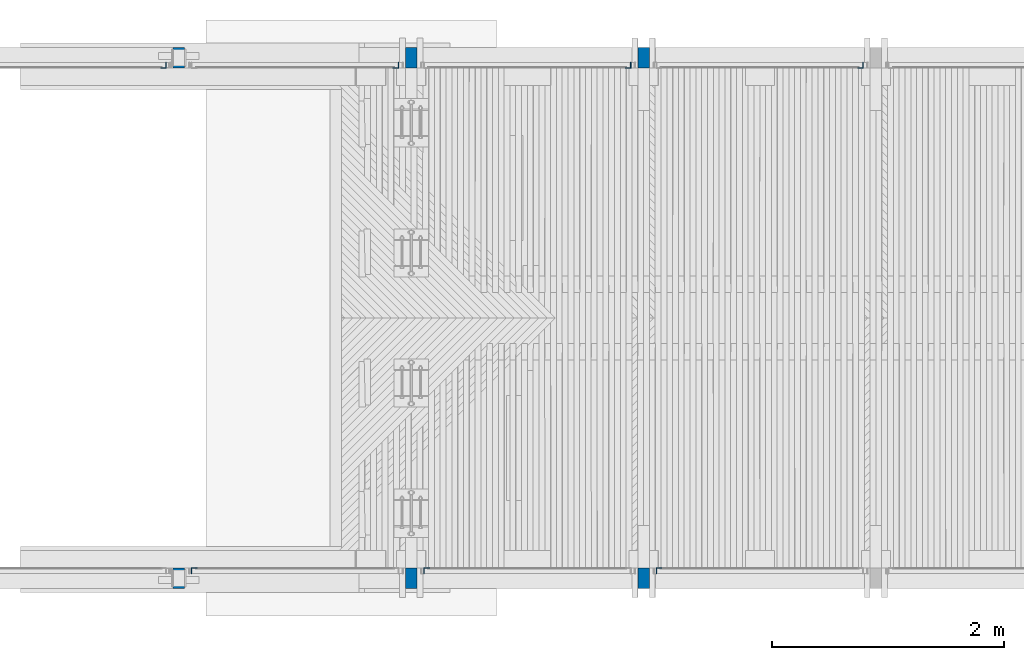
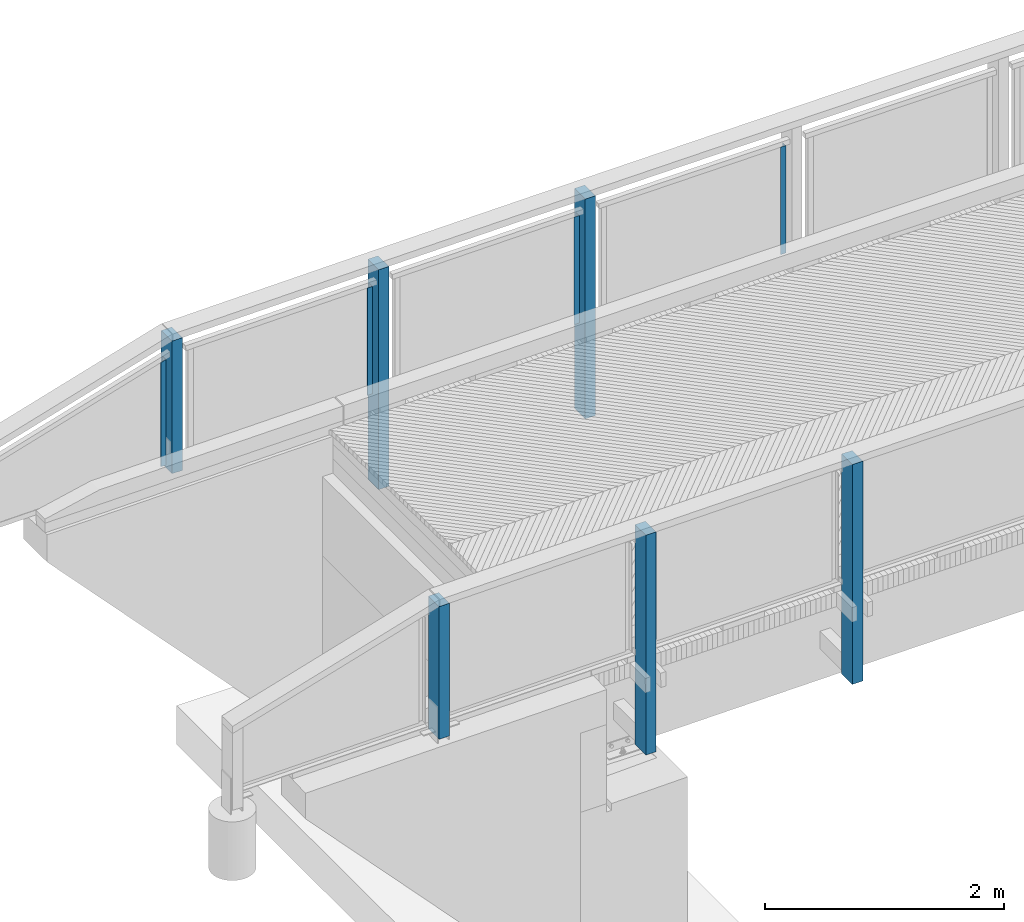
# One storey, part 7 of 65: 13 columns.
"""IFC2X3 building model written with IfcOpenShell, lengths in millimetres."""

from ifc_helpers import new_model, si_unit, frame, origin_with_axes, place, context, subcontext, project, spatial, faceted_brep, material, type_object, element, save


model = new_model("IFC2X3")

# Units and contexts
model_context = context("Model", 3, precision=1e-05, world=origin_with_axes())
body_context = subcontext(model_context, "Body", "Model", "MODEL_VIEW")
ifc_project = project(units=[si_unit("LENGTHUNIT", "METRE", prefix="MILLI"), si_unit("AREAUNIT", "SQUARE_METRE"), si_unit("VOLUMEUNIT", "CUBIC_METRE"), si_unit("MASSUNIT", "GRAM", prefix="KILO"), si_unit("TIMEUNIT", "SECOND"), si_unit("PLANEANGLEUNIT", "RADIAN"), si_unit("SOLIDANGLEUNIT", "STERADIAN"), si_unit("THERMODYNAMICTEMPERATUREUNIT", "DEGREE_CELSIUS"), si_unit("LUMINOUSINTENSITYUNIT", "LUMEN")], contexts=[model_context])

# Site, building, storey
site_placement = place(None, origin_with_axes())
site = spatial("IfcSite", under=ifc_project, at=site_placement, Name="Undefined", CompositionType="ELEMENT")
building_placement = place(site_placement, origin_with_axes())
building = spatial("IfcBuilding", under=site, at=building_placement, Name="Undefined", CompositionType="ELEMENT")
storey_placement = place(building_placement, origin_with_axes())
storey = spatial("IfcBuildingStorey", under=building, at=storey_placement, Name="Undefined", CompositionType="ELEMENT", Elevation=0.0)

# Columns
ifc_material_1 = material(Name="TIMBER/Timber_Undefined")
column_type_1 = type_object("IfcColumnType", Name="180*100", PredefinedType="NOTDEFINED")
column_1_placement = place(storey_placement, frame((-1999.99999924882, 24604.9879080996, 3128.37999999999), z_axis=(0.0, -1.0, 0.0), x_axis=(0.0, 0.0, 1.0)))
element("IfcColumn", 1, at=column_1_placement, inside=storey, type_object=column_type_1, material=ifc_material_1, Name="KAIDEPYLVÄS", ObjectType="180*100", context=body_context, shape_type="Brep", body=[
    faceted_brep([(-5.71000000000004, 50.0, -90.0), (-5.71000000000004, 50.0, 90.0), (1351.21940355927, 50.0, 90.0), (1351.21940355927, 50.0, -90.0), (-5.71000000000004, -50.0, 90.0), (1352.87649222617, -50.0, 90.0), (-5.71000000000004, -50.0, -90.0), (1352.87649222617, -50.0, -90.0)], [[[0, 1, 2, 3]], [[1, 4, 5, 2]], [[4, 6, 7, 5]], [[6, 0, 3, 7]], [[5, 7, 3, 2]], [[6, 4, 1, 0]]]),
])
column_2_placement = place(storey_placement, frame((-1999.99999924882, 20125.0120919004, 3128.38000000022), z_axis=(0.0, 1.0, 0.0), x_axis=(0.0, 0.0, 1.0)))
element("IfcColumn", 2, at=column_2_placement, inside=storey, type_object=column_type_1, material=ifc_material_1, Name="KAIDEPYLVÄS", ObjectType="180*100", context=body_context, shape_type="Brep", body=[
    faceted_brep([(-5.71000000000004, 50.0, -90.0), (-5.71000000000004, 50.0, 90.0), (1352.87649222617, 50.0, 90.0), (1352.87649222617, 50.0, -90.0), (-5.71000000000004, -50.0, 90.0), (1351.21940355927, -50.0, 90.0), (-5.71000000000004, -50.0, -90.0), (1351.21940355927, -50.0, -90.0)], [[[0, 1, 2, 3]], [[1, 4, 5, 2]], [[4, 6, 7, 5]], [[6, 0, 3, 7]], [[5, 7, 3, 2]], [[6, 4, 1, 0]]]),
])
for number, where, z_axis, x_axis in (
    (3, (2000.00006783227, 24604.9879080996, 2283.46176658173), (0.0, -1.0, 0.0), (0.0, 0.0, 1.0)),
    (4, (2000.00006783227, 20125.0120919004, 2283.46176658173), (0.0, 1.0, 0.0), (0.0, 0.0, 1.0)),
    (5, (7.51175321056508e-07, 24604.9879080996, 2260.26), (0.0, -1.0, 0.0), (0.0, 0.0, 1.0)),
    (6, (7.51175548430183e-07, 20125.0120919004, 2260.26), (0.0, 1.0, 0.0), (0.0, 0.0, 1.0)),
):
    element("IfcColumn", number, at=place(storey_placement, frame(where, z_axis=z_axis, x_axis=x_axis)), inside=storey, type_object=column_type_1, material=ifc_material_1, Name="KAIDEPYLVÄS", ObjectType="180*100", context=body_context, shape_type="Brep", body=[
        faceted_brep([(0.0, 50.0, -90.0), (0.0, 50.0, 90.0), (2250.0, 50.0, 90.0), (2250.0, 50.0, -90.0), (0.0, -50.0, 90.0), (2250.0, -50.0, 90.0), (0.0, -50.0, -90.0), (2250.0, -50.0, -90.0)], [[[0, 1, 2, 3]], [[1, 4, 5, 2]], [[4, 6, 7, 5]], [[6, 0, 3, 7]], [[5, 7, 3, 2]], [[6, 4, 1, 0]]]),
    ])
ifc_material_2 = material(Name="STEEL/S235JR")
column_type_2 = type_object("IfcColumnType", Name="L50*5", PredefinedType="NOTDEFINED")
column_3_placement = place(storey_placement, frame((-132.497505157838, 24539.9900000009, 3261.77031060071), z_axis=(0.0, 1.0, 0.0), x_axis=(0.0, 0.0, 1.0)))
element("IfcColumn", 7, at=column_3_placement, inside=storey, type_object=column_type_2, material=ifc_material_2, Name="BEAM", ObjectType="L50*5", context=body_context, shape_type="Brep", body=[
    faceted_brep([(0.0, 25.0, -25.0), (0.0, 25.0, 25.0), (1099.99179593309, 25.0, 25.0), (1099.99179593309, 25.0, -25.0), (0.0, 20.0, 25.0), (1099.99179593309, 20.0, 25.0), (0.0, 20.0, -20.0), (1099.99179593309, 20.0, -20.0), (0.0, -25.0, -20.0), (1099.99179593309, -25.0, -20.0), (0.0, -25.0, -25.0), (1099.99179593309, -25.0, -25.0)], [[[0, 1, 2, 3]], [[1, 4, 5, 2]], [[4, 6, 7, 5]], [[6, 8, 9, 7]], [[8, 10, 11, 9]], [[10, 0, 3, 11]], [[5, 7, 9, 11, 3, 2]], [[10, 8, 6, 4, 1, 0]]]),
])
column_4_placement = place(storey_placement, frame((-2132.49750515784, 24539.9900000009, 3231.9334625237), z_axis=(0.0, 1.0, 0.0), x_axis=(0.0, 0.0, 1.0)))
element("IfcColumn", 8, at=column_4_placement, inside=storey, type_object=column_type_2, material=ifc_material_2, Name="BEAM", ObjectType="L50*5", context=body_context, shape_type="Brep", body=[
    faceted_brep([(0.0, 25.0, -25.0), (0.0, 25.0, 25.0), (1081.35835382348, 25.0, 25.0), (1081.35835382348, 25.0, -25.0), (0.0, 20.0, 25.0), (1079.86576768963, 20.0, 25.0), (0.0, 20.0, -20.0), (1079.86576768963, 20.0, -20.0), (0.0, -25.0, -20.0), (1066.43249248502, -25.0, -20.0), (0.0, -25.0, -25.0), (1066.43249248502, -25.0, -25.0)], [[[0, 1, 2, 3]], [[1, 4, 5, 2]], [[4, 6, 7, 5]], [[6, 8, 9, 7]], [[8, 10, 11, 9]], [[10, 0, 3, 11]], [[5, 7, 9, 11, 3, 2]], [[10, 8, 6, 4, 1, 0]]]),
])
column_5_placement = place(storey_placement, frame((1867.50249484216, 24539.9900000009, 3285.33184107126), z_axis=(0.0, 1.0, 0.0), x_axis=(0.0, 0.0, 1.0)))
element("IfcColumn", 9, at=column_5_placement, inside=storey, type_object=column_type_2, material=ifc_material_2, Name="BEAM", ObjectType="L50*5", context=body_context, shape_type="Brep", body=[
    faceted_brep([(0.0, 25.0, -25.0), (0.0, 25.0, 25.0), (1099.99156352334, 25.0, 25.0), (1099.99156352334, 25.0, -25.0), (0.0, 20.0, 25.0), (1099.99156352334, 20.0, 25.0), (0.0, 20.0, -20.0), (1099.99156352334, 20.0, -20.0), (0.0, -25.0, -20.0), (1099.99156352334, -25.0, -20.0), (0.0, -25.0, -25.0), (1099.99156352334, -25.0, -25.0)], [[[0, 1, 2, 3]], [[1, 4, 5, 2]], [[4, 6, 7, 5]], [[6, 8, 9, 7]], [[8, 10, 11, 9]], [[10, 0, 3, 11]], [[5, 7, 9, 11, 3, 2]], [[10, 8, 6, 4, 1, 0]]]),
])
column_6_placement = place(storey_placement, frame((3867.50249484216, 24539.9900000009, 3302.25999650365), z_axis=(0.0, 1.0, 0.0), x_axis=(0.0, 0.0, 1.0)))
element("IfcColumn", 10, at=column_6_placement, inside=storey, type_object=column_type_2, material=ifc_material_2, Name="BEAM", ObjectType="L50*5", context=body_context, shape_type="Brep", body=[
    faceted_brep([(0.0, 25.0, -25.0), (0.0, 25.0, 25.0), (1099.9980148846, 25.0, 25.0), (1099.9980148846, 25.0, -25.0), (0.0, 20.0, 25.0), (1099.9980148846, 20.0, 25.0), (0.0, 20.0, -20.0), (1099.9980148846, 20.0, -20.0), (0.0, -25.0, -20.0), (1099.9980148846, -25.0, -20.0), (0.0, -25.0, -25.0), (1099.9980148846, -25.0, -25.0)], [[[0, 1, 2, 3]], [[1, 4, 5, 2]], [[4, 6, 7, 5]], [[6, 8, 9, 7]], [[8, 10, 11, 9]], [[10, 0, 3, 11]], [[5, 7, 9, 11, 3, 2]], [[10, 8, 6, 4, 1, 0]]]),
])
column_7_placement = place(storey_placement, frame((-1867.50116726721, 20190.01, 3235.14086941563), z_axis=(0.0, -1.0, 0.0), x_axis=(0.0, 0.0, 1.0)))
element("IfcColumn", 11, at=column_7_placement, inside=storey, type_object=column_type_2, material=ifc_material_2, Name="BEAM", ObjectType="L50*5", context=body_context, shape_type="Brep", body=[
    faceted_brep([(0.0, 25.0, -25.0), (0.0, 25.0, 25.0), (1099.98982283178, 25.0, 25.0), (1099.98982283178, 25.0, -25.0), (0.0, 20.0, 25.0), (1099.98982283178, 20.0, 25.0), (0.0, 20.0, -20.0), (1099.98982283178, 20.0, -20.0), (0.0, -25.0, -20.0), (1099.98982283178, -25.0, -20.0), (0.0, -25.0, -25.0), (1099.98982283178, -25.0, -25.0)], [[[0, 1, 2, 3]], [[1, 4, 5, 2]], [[4, 6, 7, 5]], [[6, 8, 9, 7]], [[8, 10, 11, 9]], [[10, 0, 3, 11]], [[5, 7, 9, 11, 3, 2]], [[10, 8, 6, 4, 1, 0]]]),
])
column_8_placement = place(storey_placement, frame((2132.49883273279, 20190.01, 3287.4660206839), z_axis=(0.0, -1.0, 0.0), x_axis=(0.0, 0.0, 1.0)))
element("IfcColumn", 12, at=column_8_placement, inside=storey, type_object=column_type_2, material=ifc_material_2, Name="BEAM", ObjectType="L50*5", context=body_context, shape_type="Brep", body=[
    faceted_brep([(0.0, 25.0, -25.0), (0.0, 25.0, 25.0), (1099.9980148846, 25.0, 25.0), (1099.9980148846, 25.0, -25.0), (0.0, 20.0, 25.0), (1099.9980148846, 20.0, 25.0), (0.0, 20.0, -20.0), (1099.9980148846, 20.0, -20.0), (0.0, -25.0, -20.0), (1099.9980148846, -25.0, -20.0), (0.0, -25.0, -25.0), (1099.9980148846, -25.0, -25.0)], [[[0, 1, 2, 3]], [[1, 4, 5, 2]], [[4, 6, 7, 5]], [[6, 8, 9, 7]], [[8, 10, 11, 9]], [[10, 0, 3, 11]], [[5, 7, 9, 11, 3, 2]], [[10, 8, 6, 4, 1, 0]]]),
])
column_9_placement = place(storey_placement, frame((132.498832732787, 20190.01, 3264.62098995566), z_axis=(0.0, -1.0, 0.0), x_axis=(0.0, 0.0, 1.0)))
element("IfcColumn", 13, at=column_9_placement, inside=storey, type_object=column_type_2, material=ifc_material_2, Name="BEAM", ObjectType="L50*5", context=body_context, shape_type="Brep", body=[
    faceted_brep([(0.0, 25.0, -25.0), (0.0, 25.0, 25.0), (1099.99156352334, 25.0, 25.0), (1099.99156352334, 25.0, -25.0), (0.0, 20.0, 25.0), (1099.99156352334, 20.0, 25.0), (0.0, 20.0, -20.0), (1099.99156352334, 20.0, -20.0), (0.0, -25.0, -20.0), (1099.99156352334, -25.0, -20.0), (0.0, -25.0, -25.0), (1099.99156352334, -25.0, -25.0)], [[[0, 1, 2, 3]], [[1, 4, 5, 2]], [[4, 6, 7, 5]], [[6, 8, 9, 7]], [[8, 10, 11, 9]], [[10, 0, 3, 11]], [[5, 7, 9, 11, 3, 2]], [[10, 8, 6, 4, 1, 0]]]),
])

save(model, "model.ifc")
